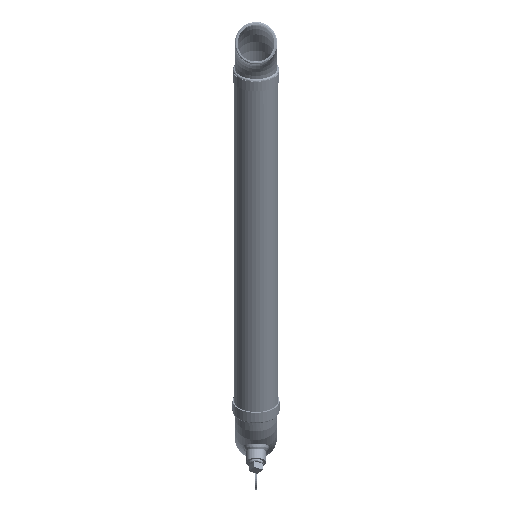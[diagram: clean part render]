
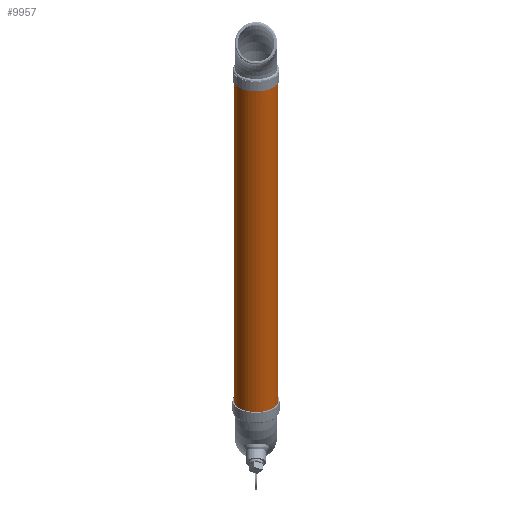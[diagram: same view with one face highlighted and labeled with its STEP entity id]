
A CAD part, front view. The second image highlights one B-rep face of the part: STEP entity #9957.
In plain terms, the highlighted cylindrical face has radius 31.394 mm (diameter 62.789 mm), a full revolution.
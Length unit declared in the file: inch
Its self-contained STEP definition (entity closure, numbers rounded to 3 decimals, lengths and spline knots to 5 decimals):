
#9930=CARTESIAN_POINT('',(0.0,0.0,0.0));
#9931=DIRECTION('',(0.0,0.0,1.0));
#9932=DIRECTION('',(-1.0,0.0,0.0));
#9933=AXIS2_PLACEMENT_3D('',#9930,#9931,#9932);
#9934=CYLINDRICAL_SURFACE('',#9933,1.236);
#9935=CARTESIAN_POINT('',(1.236,0.,21.911));
#9936=VERTEX_POINT('',#9935);
#9937=CARTESIAN_POINT('',(0.0,0.0,21.911));
#9938=DIRECTION('',(0.0,0.0,-1.0));
#9939=DIRECTION('',(-1.0,0.0,0.0));
#9940=AXIS2_PLACEMENT_3D('',#9937,#9938,#9939);
#9941=CIRCLE('',#9940,1.236);
#9942=EDGE_CURVE('',#9936,#9936,#9941,.T.);
#9943=ORIENTED_EDGE('',*,*,#9942,.T.);
#9944=EDGE_LOOP('',(#9943));
#9945=FACE_OUTER_BOUND('',#9944,.T.);
#9946=CARTESIAN_POINT('',(1.236,0.,0.0));
#9947=VERTEX_POINT('',#9946);
#9948=CARTESIAN_POINT('',(0.0,0.0,0.0));
#9949=DIRECTION('',(0.0,0.0,-1.0));
#9950=DIRECTION('',(-1.0,0.0,0.0));
#9951=AXIS2_PLACEMENT_3D('',#9948,#9949,#9950);
#9952=CIRCLE('',#9951,1.236);
#9953=EDGE_CURVE('',#9947,#9947,#9952,.T.);
#9954=ORIENTED_EDGE('',*,*,#9953,.F.);
#9955=EDGE_LOOP('',(#9954));
#9956=FACE_BOUND('',#9955,.T.);
#9957=ADVANCED_FACE('',(#9945,#9956),#9934,.T.);
